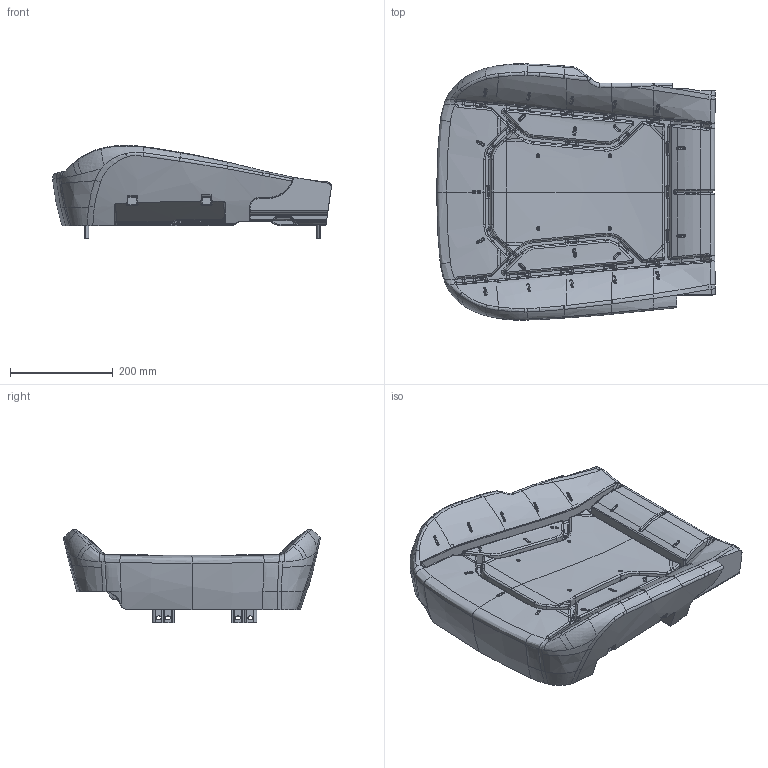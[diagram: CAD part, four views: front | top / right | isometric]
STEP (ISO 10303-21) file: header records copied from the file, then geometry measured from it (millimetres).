
FILE_DESCRIPTION(('CATIA V5 STEP Exchange'),'2;1');
FILE_NAME('C:\Users\langhechao\Desktop\SLT0011234-坐垫泡沫总成.stp','2022-04-01T08:18:54+00:00',('none'),('none'),'CATIA Version 5 Release 20 GA (IN-10)','CATIA V5 STEP AP203 Edition 2','none');
FILE_SCHEMA(('AP203_CONFIGURATION_CONTROLLED_3D_DESIGN_OF_MECHANICAL_PARTS_AND_ASSEMBLIES_MIM_LF { 1 0 10303 403 2 1 2}'));
Products named in the file (29): 6800010HH26-C00 SLT0010666_6800010BH26-C00 SLT0010202; SLT0010702_SLT0010207; SLT0010681_SLT0010208; 6804420X2001A; SHT0011332; H5-6802105; H5-6802103; BPC0010111; BPC0010112; 322122805200; SLT0010689_SLT0010298; SLT0011234; SLT0010794; SLT0011239; SLT0011240; SLT0011241; SLT0011242; SLT0010304; SLT0010630; SLT0010631; SLT0010683; SLT0010648; SLT0010649; SLT0010650; SLT0010652; SLT0010694; SLT0010653; SLT0010654; SLT0010655
Assembly tree (37 placements, depth 5):
  6800010HH26-C00 SLT0010666_6800010BH26-C00 SLT0010202
    SLT0010702_SLT0010207
      SLT0010681_SLT0010208
      6804420X2001A
        SHT0011332
        H5-6802105  x4
        H5-6802103  x2
        BPC0010111
        BPC0010112
      322122805200
    SLT0010689_SLT0010298
      SLT0011234
        SLT0010794
        SLT0011239  x2
        SLT0011240  x2
        SLT0011241
        SLT0011242
        SLT0010304
        SLT0010630
          SLT0010631  x2
          SLT0010683  x2
          SLT0010648
          SLT0010649
          SLT0010650  x2
          SLT0010652
          SLT0010694
          SLT0010653
          SLT0010654
          SLT0010655
Bounding box: 541.68 x 498.15 x 181.29 mm (x, y, z)
Volume: 18057999.6 mm3; surface area: 859374.7 mm2
Topology: 20 solids, 20 shells, 3171 faces, 7686 edges, 4141 vertices
Faces by surface type: bspline 1643, cylinder 544, sphere 413, plane 293, torus 251, revolution 26, extrusion 1
Entity records: 241611 total; most frequent: CARTESIAN_POINT 191238, ORIENTED_EDGE 13502, EDGE_CURVE 6751, DIRECTION 4545, B_SPLINE_CURVE_WITH_KNOTS 4443, VERTEX_POINT 3855, EDGE_LOOP 2990, ADVANCED_FACE 2956
